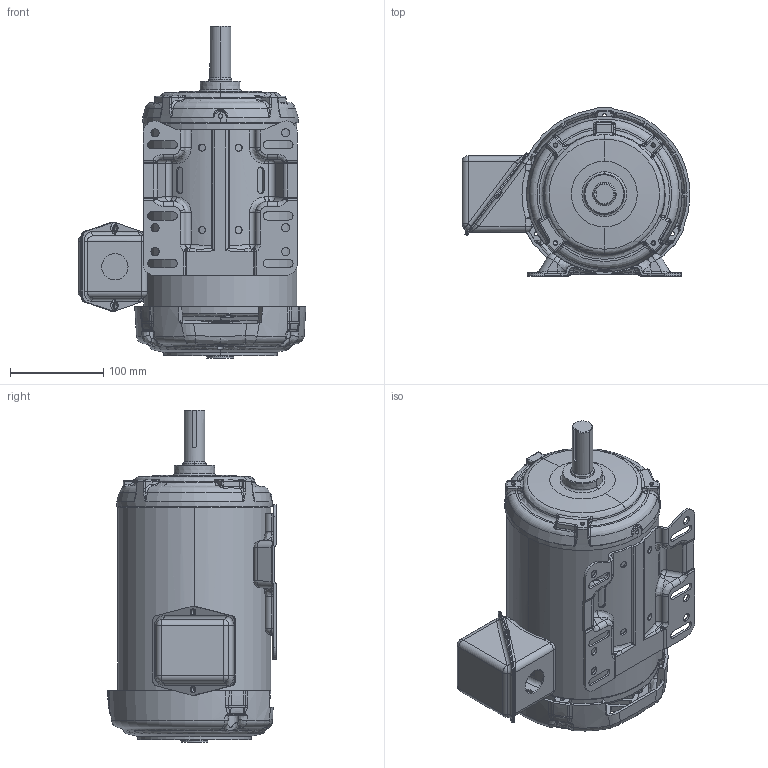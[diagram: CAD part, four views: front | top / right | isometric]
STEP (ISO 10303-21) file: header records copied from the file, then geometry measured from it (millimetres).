
FILE_DESCRIPTION((''),'2;1');
FILE_NAME('140_ASSY_ASM','2019-06-20T13:21:23',('EMD2341'),('Nidec Motor Corporation'),'CREO PARAMETRIC BY PTC INC, 2018300','CREO PARAMETRIC BY PTC INC, 2018300','');
FILE_SCHEMA(('CONFIG_CONTROL_DESIGN'));
Length unit declared in the file: inch
Products named in the file (12): 143UT_AF0; 0190767; 0774783; 0936254; 0387280-BKT_AF25; I20258935000_AF25; 0387281_ASM; 0343740; 0399601; 0912536; B35796439; 140_ASSY_ASM
Assembly tree (11 placements, depth 3):
  140_ASSY_ASM
    143UT_AF0
    0190767
    0774783
    0936254
    0387281_ASM
      0387280-BKT_AF25
      I20258935000_AF25
    0343740
    0399601
    0912536
    B35796439
Bounding box: 243.75 x 180.07 x 355.2 mm (x, y, z)
Volume: 928606.6 mm3; surface area: 603643.9 mm2
Topology: 12 solids, 16 shells, 2484 faces, 6132 edges, 3659 vertices
Faces by surface type: bspline 1022, cylinder 502, plane 430, torus 277, cone 179, sphere 74
Entity records: 117387 total; most frequent: CARTESIAN_POINT 65439, ORIENTED_EDGE 12224, DIRECTION 9070, EDGE_CURVE 6120, AXIS2_PLACEMENT_3D 3855, VERTEX_POINT 3659, EDGE_LOOP 2643, FACE_OUTER_BOUND 2484
